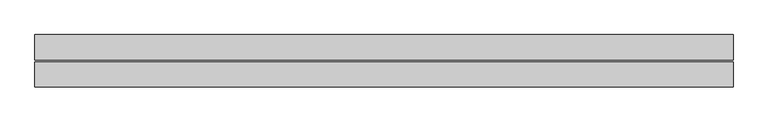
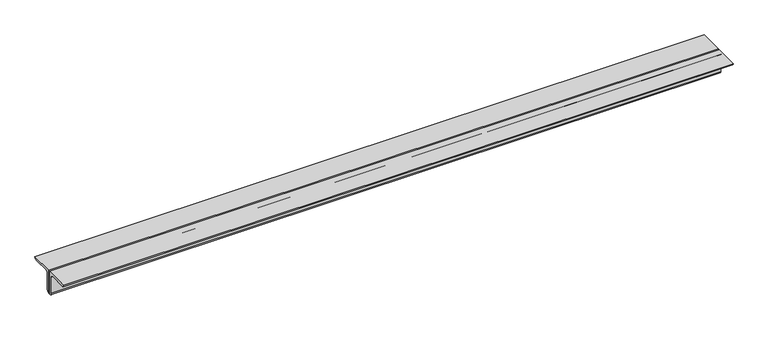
"""IFC4 building model written with IfcOpenShell, lengths in millimetres: beam geometry, Profilati doppi a L : DCED150x12."""

from ifc_helpers import new_model, si_unit, point, frame, frame_2d, origin, place, context, project, spatial, polyline, circle_curve, trimmed, segment, composite_curve, outline, extrude, source, transform, mapped, element, save


def beam_a2f6b81b(model_context):
    return source(origin(), model_context, "Body", "SweptSolid", [
        extrude(outline(composite_curve([segment(polyline([(-6.0, 42.4), (-6.0, -107.6)]), True, "CONTINUOUS"), segment(trimmed(circle_curve(frame_2d((-6.0, -92.6)), 15.0), [point((-6.0, -107.6))], [point((-21.0, -92.6))], False, "CARTESIAN"), True, "CONTINUOUS"), segment(polyline([(-21.0, -92.6), (-21.0, 12.4)]), True, "CONTINUOUS"), segment(trimmed(circle_curve(frame_2d((-36.0, 12.4)), 15.0), [point((-21.0, 12.4))], [point((-36.0, 27.4))], True, "CARTESIAN"), True, "CONTINUOUS"), segment(polyline([(-36.0, 27.4), (-141.0, 27.4)]), True, "CONTINUOUS"), segment(trimmed(circle_curve(frame_2d((-141.0, 42.4)), 15.0), [point((-141.0, 27.4))], [point((-156.0, 42.4))], False, "CARTESIAN"), True, "CONTINUOUS"), segment(polyline([(-156.0, 42.4), (-6.0, 42.4)]), True, "CONTINUOUS")], self_intersect=False)), frame((-1985.0, 0.0, 0.0), z_axis=(1.0, 0.0, 0.0), x_axis=(0.0, 1.0, 0.0)), (0.0, 0.0, 1.0), 4169.0),
        extrude(outline(composite_curve([segment(polyline([(6.0, 42.4), (156.0, 42.4)]), True, "CONTINUOUS"), segment(trimmed(circle_curve(frame_2d((141.0, 42.4)), 15.0), [point((156.0, 42.4))], [point((141.0, 27.4))], False, "CARTESIAN"), True, "CONTINUOUS"), segment(polyline([(141.0, 27.4), (36.0, 27.4)]), True, "CONTINUOUS"), segment(trimmed(circle_curve(frame_2d((36.0, 12.4)), 15.0), [point((36.0, 27.4))], [point((21.0, 12.4))], True, "CARTESIAN"), True, "CONTINUOUS"), segment(polyline([(21.0, 12.4), (21.0, -92.6)]), True, "CONTINUOUS"), segment(trimmed(circle_curve(frame_2d((6.0, -92.6)), 15.0), [point((21.0, -92.6))], [point((6.0, -107.6))], False, "CARTESIAN"), True, "CONTINUOUS"), segment(polyline([(6.0, -107.6), (6.0, 42.4)]), True, "CONTINUOUS")], self_intersect=False)), frame((-1985.0, 0.0, 0.0), z_axis=(1.0, 0.0, 0.0), x_axis=(0.0, 1.0, 0.0)), (0.0, 0.0, 1.0), 4169.0),
    ])


if __name__ == "__main__":
    model = new_model("IFC4")
    model_context = context("Model", 3, world=origin())
    ifc_project = project(units=[si_unit("LENGTHUNIT", "METRE", prefix="MILLI")], contexts=[model_context])
    site = spatial("IfcSite", under=ifc_project)
    building = spatial("IfcBuilding", under=site)
    placement = place(None, origin())
    beam_shape = beam_a2f6b81b(model_context)
    element("IfcBeam", 1, ObjectType="Profilati doppi a L : DCED150x12", at=placement, inside=building, context=model_context, shape_type="MappedRepresentation", body=[
        mapped(beam_shape, transform((0.0, 0.0, 0.0), x_axis=(1.0, 0.0, 0.0), y_axis=(0.0, 1.0, 0.0), z_axis=(0.0, 0.0, 1.0))),
    ])
    save(model, "model.ifc")
